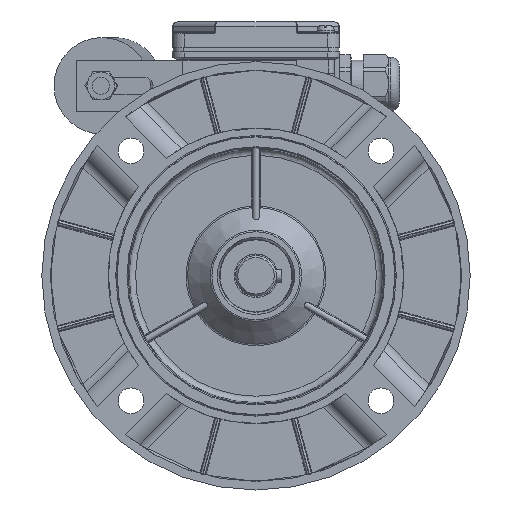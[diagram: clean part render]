
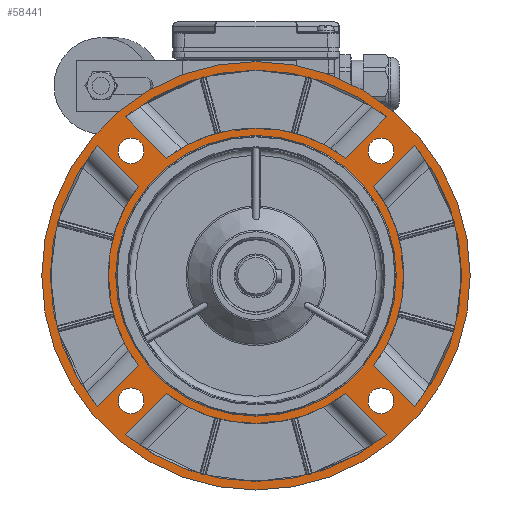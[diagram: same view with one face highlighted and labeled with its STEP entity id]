
A CAD part, left-side view. The second image highlights one B-rep face of the part: STEP entity #58441.
In plain terms, the highlighted planar face has unit normal (-1, 0, 0).
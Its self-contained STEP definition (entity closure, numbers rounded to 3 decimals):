
#2300=LINE('',#87536,#5539);
#2301=LINE('',#87541,#5540);
#2302=LINE('',#87544,#5541);
#2303=LINE('',#87549,#5542);
#2304=LINE('',#87554,#5543);
#2305=LINE('',#87559,#5544);
#2306=LINE('',#87562,#5545);
#2307=LINE('',#87567,#5546);
#5539=VECTOR('',#68302,1000.);
#5540=VECTOR('',#68305,1000.);
#5541=VECTOR('',#68308,1000.);
#5542=VECTOR('',#68311,1000.);
#5543=VECTOR('',#68316,1000.);
#5544=VECTOR('',#68319,1000.);
#5545=VECTOR('',#68322,1000.);
#5546=VECTOR('',#68325,1000.);
#8663=PLANE('',#61535);
#13952=ORIENTED_EDGE('',*,*,#24782,.T.);
#13953=ORIENTED_EDGE('',*,*,#24783,.T.);
#13954=ORIENTED_EDGE('',*,*,#24784,.T.);
#13955=ORIENTED_EDGE('',*,*,#24785,.T.);
#13956=ORIENTED_EDGE('',*,*,#24786,.T.);
#13957=ORIENTED_EDGE('',*,*,#24787,.T.);
#13958=ORIENTED_EDGE('',*,*,#24788,.T.);
#13959=ORIENTED_EDGE('',*,*,#24789,.T.);
#13960=ORIENTED_EDGE('',*,*,#24744,.F.);
#13961=ORIENTED_EDGE('',*,*,#24743,.F.);
#13962=ORIENTED_EDGE('',*,*,#24742,.F.);
#13963=ORIENTED_EDGE('',*,*,#24741,.F.);
#13964=ORIENTED_EDGE('',*,*,#24790,.T.);
#13965=ORIENTED_EDGE('',*,*,#24781,.T.);
#13966=ORIENTED_EDGE('',*,*,#24791,.T.);
#13967=ORIENTED_EDGE('',*,*,#24792,.T.);
#13968=ORIENTED_EDGE('',*,*,#24793,.T.);
#13969=ORIENTED_EDGE('',*,*,#24794,.T.);
#13970=ORIENTED_EDGE('',*,*,#24795,.T.);
#13971=ORIENTED_EDGE('',*,*,#24796,.T.);
#13972=ORIENTED_EDGE('',*,*,#24797,.T.);
#13973=ORIENTED_EDGE('',*,*,#24798,.T.);
#24741=EDGE_CURVE('',#30524,#30524,#34075,.T.);
#24742=EDGE_CURVE('',#30525,#30525,#34076,.T.);
#24743=EDGE_CURVE('',#30526,#30526,#34077,.T.);
#24744=EDGE_CURVE('',#30527,#30527,#34078,.T.);
#24781=EDGE_CURVE('',#30548,#30548,#34088,.T.);
#24782=EDGE_CURVE('',#30549,#30550,#2300,.T.);
#24783=EDGE_CURVE('',#30550,#30551,#34089,.T.);
#24784=EDGE_CURVE('',#30551,#30552,#2301,.T.);
#24785=EDGE_CURVE('',#30552,#30549,#34090,.T.);
#24786=EDGE_CURVE('',#30553,#30554,#2302,.T.);
#24787=EDGE_CURVE('',#30554,#30555,#34091,.T.);
#24788=EDGE_CURVE('',#30555,#30556,#2303,.T.);
#24789=EDGE_CURVE('',#30556,#30553,#34092,.T.);
#24790=EDGE_CURVE('',#30557,#30557,#34093,.F.);
#24791=EDGE_CURVE('',#30558,#30559,#2304,.T.);
#24792=EDGE_CURVE('',#30559,#30560,#34094,.T.);
#24793=EDGE_CURVE('',#30560,#30561,#2305,.T.);
#24794=EDGE_CURVE('',#30561,#30558,#34095,.T.);
#24795=EDGE_CURVE('',#30562,#30563,#2306,.T.);
#24796=EDGE_CURVE('',#30563,#30564,#34096,.T.);
#24797=EDGE_CURVE('',#30564,#30565,#2307,.T.);
#24798=EDGE_CURVE('',#30565,#30562,#34097,.T.);
#30524=VERTEX_POINT('',#87378);
#30525=VERTEX_POINT('',#87381);
#30526=VERTEX_POINT('',#87384);
#30527=VERTEX_POINT('',#87387);
#30548=VERTEX_POINT('',#87534);
#30549=VERTEX_POINT('',#87537);
#30550=VERTEX_POINT('',#87538);
#30551=VERTEX_POINT('',#87540);
#30552=VERTEX_POINT('',#87542);
#30553=VERTEX_POINT('',#87545);
#30554=VERTEX_POINT('',#87546);
#30555=VERTEX_POINT('',#87548);
#30556=VERTEX_POINT('',#87550);
#30557=VERTEX_POINT('',#87553);
#30558=VERTEX_POINT('',#87555);
#30559=VERTEX_POINT('',#87556);
#30560=VERTEX_POINT('',#87558);
#30561=VERTEX_POINT('',#87560);
#30562=VERTEX_POINT('',#87563);
#30563=VERTEX_POINT('',#87564);
#30564=VERTEX_POINT('',#87566);
#30565=VERTEX_POINT('',#87568);
#34075=CIRCLE('',#61499,6.);
#34076=CIRCLE('',#61501,6.);
#34077=CIRCLE('',#61503,6.);
#34078=CIRCLE('',#61505,6.);
#34088=CIRCLE('',#61534,100.);
#34089=CIRCLE('',#61536,69.);
#34090=CIRCLE('',#61537,96.);
#34091=CIRCLE('',#61538,69.);
#34092=CIRCLE('',#61539,96.);
#34093=CIRCLE('',#61540,65.5);
#34094=CIRCLE('',#61541,69.);
#34095=CIRCLE('',#61542,96.);
#34096=CIRCLE('',#61543,69.);
#34097=CIRCLE('',#61544,96.);
#36273=EDGE_LOOP('',(#13952,#13953,#13954,#13955));
#36274=EDGE_LOOP('',(#13956,#13957,#13958,#13959));
#36275=EDGE_LOOP('',(#13960));
#36276=EDGE_LOOP('',(#13961));
#36277=EDGE_LOOP('',(#13962));
#36278=EDGE_LOOP('',(#13963));
#36279=EDGE_LOOP('',(#13964));
#36280=EDGE_LOOP('',(#13965));
#36281=EDGE_LOOP('',(#13966,#13967,#13968,#13969));
#36282=EDGE_LOOP('',(#13970,#13971,#13972,#13973));
#39177=FACE_BOUND('',#36273,.T.);
#39178=FACE_BOUND('',#36274,.T.);
#39179=FACE_BOUND('',#36275,.T.);
#39180=FACE_BOUND('',#36276,.T.);
#39181=FACE_BOUND('',#36277,.T.);
#39182=FACE_BOUND('',#36278,.T.);
#39183=FACE_BOUND('',#36279,.T.);
#39184=FACE_BOUND('',#36280,.T.);
#39185=FACE_BOUND('',#36281,.T.);
#39186=FACE_BOUND('',#36282,.T.);
#58441=ADVANCED_FACE('',(#39177,#39178,#39179,#39180,#39181,#39182,#39183,
#39184,#39185,#39186),#8663,.T.);
#61499=AXIS2_PLACEMENT_3D('',#87377,#68212,#68213);
#61501=AXIS2_PLACEMENT_3D('',#87380,#68216,#68217);
#61503=AXIS2_PLACEMENT_3D('',#87383,#68220,#68221);
#61505=AXIS2_PLACEMENT_3D('',#87386,#68224,#68225);
#61534=AXIS2_PLACEMENT_3D('',#87533,#68298,#68299);
#61535=AXIS2_PLACEMENT_3D('',#87535,#68300,#68301);
#61536=AXIS2_PLACEMENT_3D('',#87539,#68303,#68304);
#61537=AXIS2_PLACEMENT_3D('',#87543,#68306,#68307);
#61538=AXIS2_PLACEMENT_3D('',#87547,#68309,#68310);
#61539=AXIS2_PLACEMENT_3D('',#87551,#68312,#68313);
#61540=AXIS2_PLACEMENT_3D('',#87552,#68314,#68315);
#61541=AXIS2_PLACEMENT_3D('',#87557,#68317,#68318);
#61542=AXIS2_PLACEMENT_3D('',#87561,#68320,#68321);
#61543=AXIS2_PLACEMENT_3D('',#87565,#68323,#68324);
#61544=AXIS2_PLACEMENT_3D('',#87569,#68326,#68327);
#68212=DIRECTION('',(-1.,0.,0.));
#68213=DIRECTION('',(0.,-1.,0.));
#68216=DIRECTION('',(-1.,0.,0.));
#68217=DIRECTION('',(0.,-1.,0.));
#68220=DIRECTION('',(-1.,0.,0.));
#68221=DIRECTION('',(0.,-1.,0.));
#68224=DIRECTION('',(-1.,0.,0.));
#68225=DIRECTION('',(0.,-1.,0.));
#68298=DIRECTION('',(-1.,0.,0.));
#68299=DIRECTION('',(0.,0.,-1.));
#68300=DIRECTION('',(-1.,0.,0.));
#68301=DIRECTION('',(0.,0.,-1.));
#68302=DIRECTION('',(0.,-0.707,-0.707));
#68303=DIRECTION('',(-1.,0.,0.));
#68304=DIRECTION('',(0.,-1.,0.));
#68305=DIRECTION('',(0.,0.707,-0.707));
#68306=DIRECTION('',(1.,0.,0.));
#68307=DIRECTION('',(0.,-1.,0.));
#68308=DIRECTION('',(0.,0.707,0.707));
#68309=DIRECTION('',(-1.,0.,0.));
#68310=DIRECTION('',(0.,1.,0.));
#68311=DIRECTION('',(0.,-0.707,0.707));
#68312=DIRECTION('',(1.,0.,0.));
#68313=DIRECTION('',(0.,1.,0.));
#68314=DIRECTION('',(-1.,0.,0.));
#68315=DIRECTION('',(0.,0.,-1.));
#68316=DIRECTION('',(0.,-0.707,0.707));
#68317=DIRECTION('',(-1.,0.,0.));
#68318=DIRECTION('',(0.,0.,1.));
#68319=DIRECTION('',(0.,-0.707,-0.707));
#68320=DIRECTION('',(1.,0.,0.));
#68321=DIRECTION('',(0.,0.,1.));
#68322=DIRECTION('',(0.,0.707,-0.707));
#68323=DIRECTION('',(-1.,0.,0.));
#68324=DIRECTION('',(0.,0.,-1.));
#68325=DIRECTION('',(0.,0.707,0.707));
#68326=DIRECTION('',(1.,0.,0.));
#68327=DIRECTION('',(0.,0.,-1.));
#87377=CARTESIAN_POINT('',(-44.8,58.336,58.336));
#87378=CARTESIAN_POINT('',(-44.8,52.336,58.336));
#87380=CARTESIAN_POINT('',(-44.8,-58.336,58.336));
#87381=CARTESIAN_POINT('',(-44.8,-64.336,58.336));
#87383=CARTESIAN_POINT('',(-44.8,-58.336,-58.336));
#87384=CARTESIAN_POINT('',(-44.8,-64.336,-58.336));
#87386=CARTESIAN_POINT('',(-44.8,58.336,-58.336));
#87387=CARTESIAN_POINT('',(-44.8,52.336,-58.336));
#87533=CARTESIAN_POINT('',(-44.8,0.,0.));
#87534=CARTESIAN_POINT('',(-44.8,0.,-100.));
#87535=CARTESIAN_POINT('',(-44.8,0.,-65.));
#87536=CARTESIAN_POINT('',(-44.8,53.605,40.403));
#87537=CARTESIAN_POINT('',(-44.8,74.161,60.96));
#87538=CARTESIAN_POINT('',(-44.8,54.943,41.741));
#87539=CARTESIAN_POINT('',(-44.8,0.,0.));
#87540=CARTESIAN_POINT('',(-44.8,54.943,-41.741));
#87541=CARTESIAN_POINT('',(-44.8,73.211,-60.009));
#87542=CARTESIAN_POINT('',(-44.8,74.161,-60.96));
#87543=CARTESIAN_POINT('',(-44.8,0.,0.));
#87544=CARTESIAN_POINT('',(-44.8,-53.605,-40.403));
#87545=CARTESIAN_POINT('',(-44.8,-74.161,-60.96));
#87546=CARTESIAN_POINT('',(-44.8,-54.943,-41.741));
#87547=CARTESIAN_POINT('',(-44.8,0.,0.));
#87548=CARTESIAN_POINT('',(-44.8,-54.943,41.741));
#87549=CARTESIAN_POINT('',(-44.8,-73.211,60.009));
#87550=CARTESIAN_POINT('',(-44.8,-74.161,60.96));
#87551=CARTESIAN_POINT('',(-44.8,0.,0.));
#87552=CARTESIAN_POINT('',(-44.8,0.,0.));
#87553=CARTESIAN_POINT('',(-44.8,0.,-65.5));
#87554=CARTESIAN_POINT('',(-44.8,40.403,-53.605));
#87555=CARTESIAN_POINT('',(-44.8,60.96,-74.161));
#87556=CARTESIAN_POINT('',(-44.8,41.741,-54.943));
#87557=CARTESIAN_POINT('',(-44.8,0.,0.));
#87558=CARTESIAN_POINT('',(-44.8,-41.741,-54.943));
#87559=CARTESIAN_POINT('',(-44.8,-60.009,-73.211));
#87560=CARTESIAN_POINT('',(-44.8,-60.96,-74.161));
#87561=CARTESIAN_POINT('',(-44.8,0.,0.));
#87562=CARTESIAN_POINT('',(-44.8,-40.403,53.605));
#87563=CARTESIAN_POINT('',(-44.8,-60.96,74.161));
#87564=CARTESIAN_POINT('',(-44.8,-41.741,54.943));
#87565=CARTESIAN_POINT('',(-44.8,0.,0.));
#87566=CARTESIAN_POINT('',(-44.8,41.741,54.943));
#87567=CARTESIAN_POINT('',(-44.8,60.009,73.211));
#87568=CARTESIAN_POINT('',(-44.8,60.96,74.161));
#87569=CARTESIAN_POINT('',(-44.8,0.,0.));
